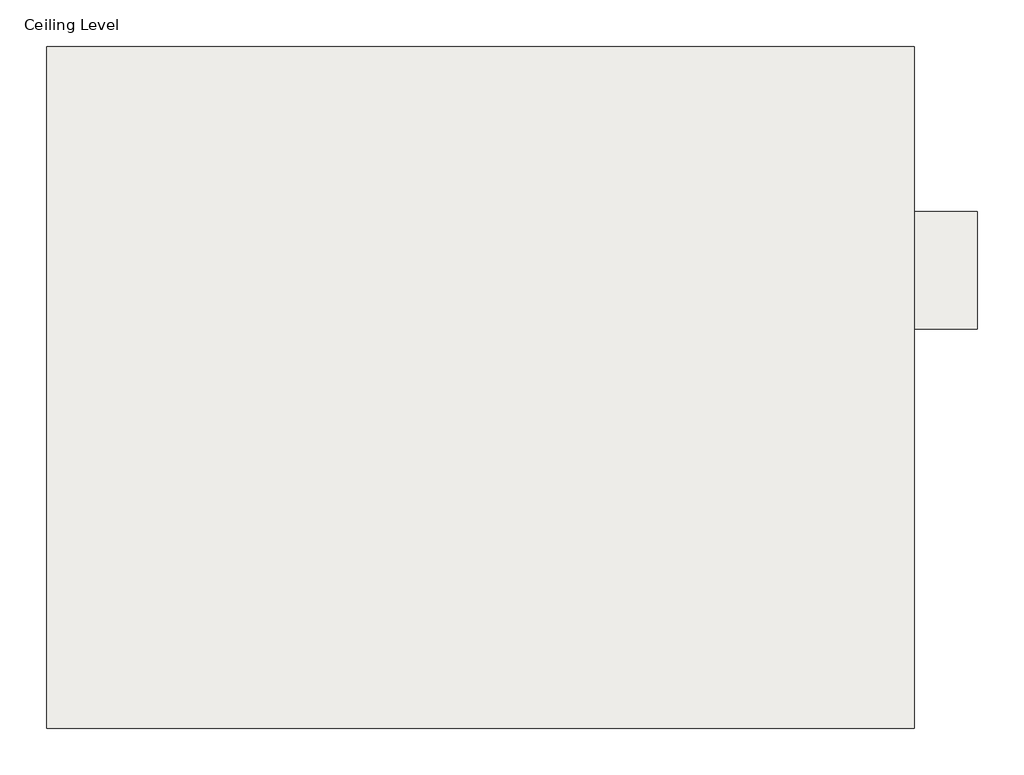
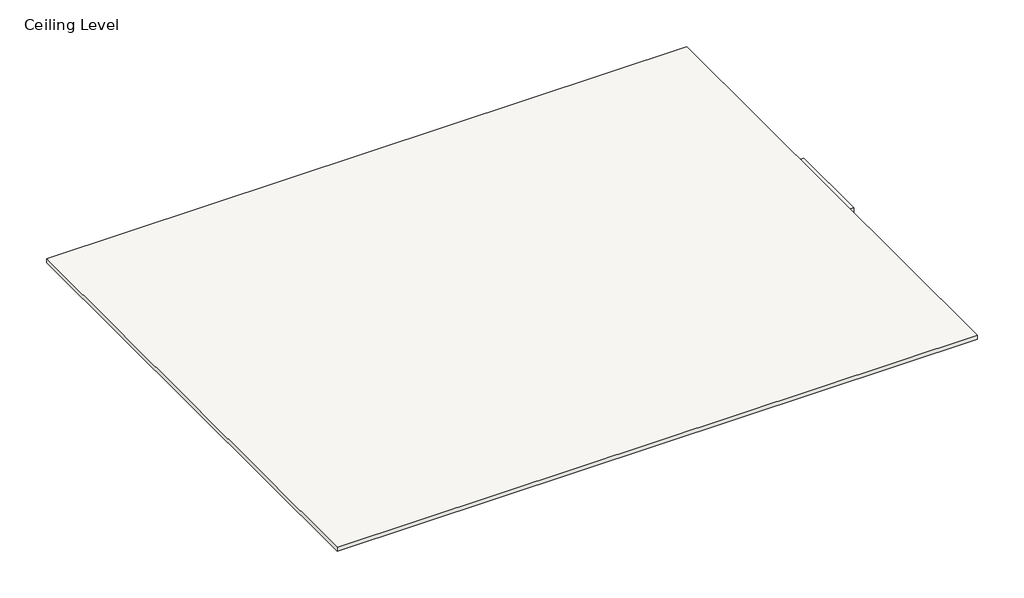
# One storey: 2 coverings.
"""IFC4 building model written with IfcOpenShell, lengths in millimetres."""

from ifc_helpers import new_model, si_unit, frame, origin, place, context, project, spatial, polyline, outline, extrude, element, save

model = new_model("IFC4")

# Units and contexts
model_context = context("Model", 3, world=origin())
ifc_project = project(units=[si_unit("LENGTHUNIT", "METRE", prefix="MILLI")], contexts=[model_context])

# Site, building, storey
site = spatial("IfcSite", under=ifc_project)
building = spatial("IfcBuilding", under=site)
storey = spatial("IfcBuildingStorey", under=building, Name="Ceiling Level", Elevation=0.0)

# Coverings
placement = place(None, origin())
element("IfcCovering", 1, ObjectType="Rockfon MediCare Air A24 (white) 1200 x 600 x 25 mm", at=placement, inside=storey, context=model_context, shape_type="SweptSolid", body=[
    extrude(outline(polyline([(-7000.9781072, 8795.7122432), (-7000.9781072, 5895.7122432), (-10690.9781072, 5895.7122432), (-10690.9781072, 8795.7122432), (-7000.9781072, 8795.7122432)])), frame((0.0, 0.0, 1.0), z_axis=(0.0, 0.0, 1.0), x_axis=(1.0, 0.0, 0.0)), (0.0, 0.0, 1.0), 25.0),
])
element("IfcCovering", 2, ObjectType="Rockfon MediCare Air A24 (white) 600 x 600 x 25 mm", at=placement, inside=storey, context=model_context, shape_type="SweptSolid", body=[
    extrude(outline(polyline([(-6733.0033126, 8093.9594631), (-6733.0033126, 7593.9594631), (-7133.0033126, 7593.9594631), (-7133.0033126, 8093.9594631), (-6733.0033126, 8093.9594631)])), frame((0.0, 0.0, -347.567293), z_axis=(0.0, 0.0, 1.0), x_axis=(1.0, 0.0, 0.0)), (0.0, 0.0, 1.0), 25.0),
])

save(model, "model.ifc")
